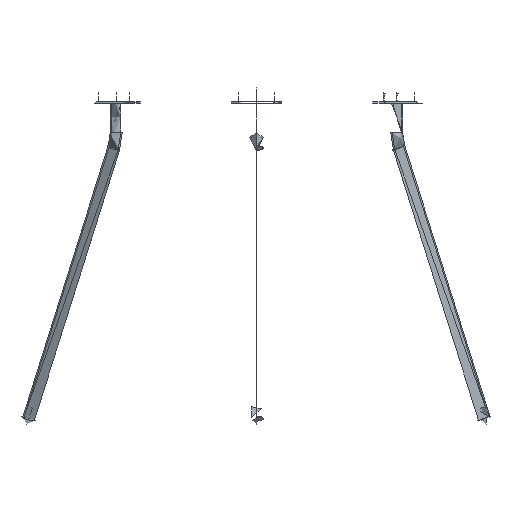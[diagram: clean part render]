
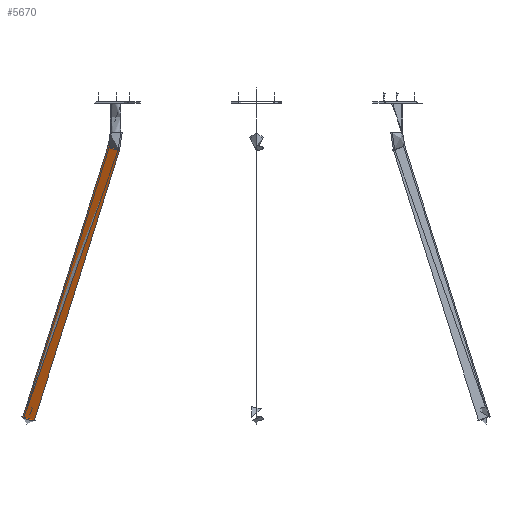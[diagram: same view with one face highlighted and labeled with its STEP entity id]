
A CAD part, left-side view. The second image highlights one B-rep face of the part: STEP entity #5670.
In plain terms, the highlighted free-form (B-spline) face has degree [1, 2] with [2, 9] control points.
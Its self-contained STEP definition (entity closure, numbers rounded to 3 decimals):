
#5670=ADVANCED_FACE('',(#5871),#8194,.T.);
#5871=FACE_OUTER_BOUND('',#6115,.T.);
#6115=EDGE_LOOP('',(#6533,#6534));
#6533=ORIENTED_EDGE('',*,*,#6962,.F.);
#6534=ORIENTED_EDGE('',*,*,#6961,.F.);
#6961=EDGE_CURVE('',#8014,#8015,#7569,.T.);
#6962=EDGE_CURVE('',#8015,#8014,#7570,.T.);
#7569=(
BOUNDED_CURVE()
B_SPLINE_CURVE(2,(#15758,#15759,#15760,#15761,#15762,#15763,#15764),
 .UNSPECIFIED.,.F.,.F.)
B_SPLINE_CURVE_WITH_KNOTS((3,2,2,3),(0.,1.571,3.142,
4.142),.UNSPECIFIED.)
CURVE()
GEOMETRIC_REPRESENTATION_ITEM()
RATIONAL_B_SPLINE_CURVE((1.,0.707,1.,0.707,1.,1.,
1.))
REPRESENTATION_ITEM('')
);
#7570=(
BOUNDED_CURVE()
B_SPLINE_CURVE(2,(#15765,#15766,#15767,#15768,#15769,#15770,#15771),
 .UNSPECIFIED.,.F.,.F.)
B_SPLINE_CURVE_WITH_KNOTS((3,2,2,3),(4.142,5.712,
7.283,8.283),.UNSPECIFIED.)
CURVE()
GEOMETRIC_REPRESENTATION_ITEM()
RATIONAL_B_SPLINE_CURVE((1.,0.707,1.,0.707,1.,1.,
1.))
REPRESENTATION_ITEM('')
);
#8014=VERTEX_POINT('',#15756);
#8015=VERTEX_POINT('',#15757);
#8194=(
BOUNDED_SURFACE()
B_SPLINE_SURFACE(1,2,((#15738,#15739,#15740,#15741,#15742,#15743,#15744,
#15745,#15746),(#15747,#15748,#15749,#15750,#15751,#15752,#15753,#15754,
#15755)),.UNSPECIFIED.,.F.,.F.,.F.)
B_SPLINE_SURFACE_WITH_KNOTS((2,2),(3,2,2,2,3),(0.,1.),(0.,0.884,
1.767,2.651,3.534),.UNSPECIFIED.)
GEOMETRIC_REPRESENTATION_ITEM()
RATIONAL_B_SPLINE_SURFACE(((1.,0.904,1.,0.904,1.,
0.904,1.,0.904,1.),(1.,0.904,1.,0.904,
1.,0.904,1.,0.904,1.)))
REPRESENTATION_ITEM('')
SURFACE()
);
#15738=CARTESIAN_POINT('',(98.252,179.168,358.511));
#15739=CARTESIAN_POINT('',(94.566,181.296,358.511));
#15740=CARTESIAN_POINT('',(93.773,185.324,359.637));
#15741=CARTESIAN_POINT('',(92.981,189.352,360.762));
#15742=CARTESIAN_POINT('',(95.661,192.335,362.19));
#15743=CARTESIAN_POINT('',(98.342,195.317,363.618));
#15744=CARTESIAN_POINT('',(102.536,195.073,364.304));
#15745=CARTESIAN_POINT('',(106.73,194.829,364.991));
#15746=CARTESIAN_POINT('',(109.37,191.537,364.433));
#15747=CARTESIAN_POINT('',(162.685,290.77,4.453));
#15748=CARTESIAN_POINT('',(158.999,292.898,4.453));
#15749=CARTESIAN_POINT('',(158.206,296.926,5.578));
#15750=CARTESIAN_POINT('',(157.414,300.954,6.704));
#15751=CARTESIAN_POINT('',(160.095,303.936,8.132));
#15752=CARTESIAN_POINT('',(162.775,306.919,9.56));
#15753=CARTESIAN_POINT('',(166.969,306.675,10.246));
#15754=CARTESIAN_POINT('',(171.163,306.431,10.932));
#15755=CARTESIAN_POINT('',(173.804,303.139,10.375));
#15756=CARTESIAN_POINT('',(98.252,179.168,358.511));
#15757=CARTESIAN_POINT('',(171.143,305.418,10.609));
#15758=CARTESIAN_POINT('',(98.252,179.168,358.511));
#15759=CARTESIAN_POINT('',(90.458,183.668,358.511));
#15760=CARTESIAN_POINT('',(94.687,190.992,361.59));
#15761=CARTESIAN_POINT('',(98.915,198.316,364.668));
#15762=CARTESIAN_POINT('',(106.709,193.816,364.668));
#15763=CARTESIAN_POINT('',(138.926,249.617,187.638));
#15764=CARTESIAN_POINT('',(171.143,305.418,10.609));
#15765=CARTESIAN_POINT('',(171.143,305.418,10.609));
#15766=CARTESIAN_POINT('',(163.348,309.918,10.609));
#15767=CARTESIAN_POINT('',(159.12,302.594,7.531));
#15768=CARTESIAN_POINT('',(154.891,295.27,4.453));
#15769=CARTESIAN_POINT('',(162.685,290.77,4.453));
#15770=CARTESIAN_POINT('',(130.469,234.969,181.482));
#15771=CARTESIAN_POINT('',(98.252,179.168,358.511));
